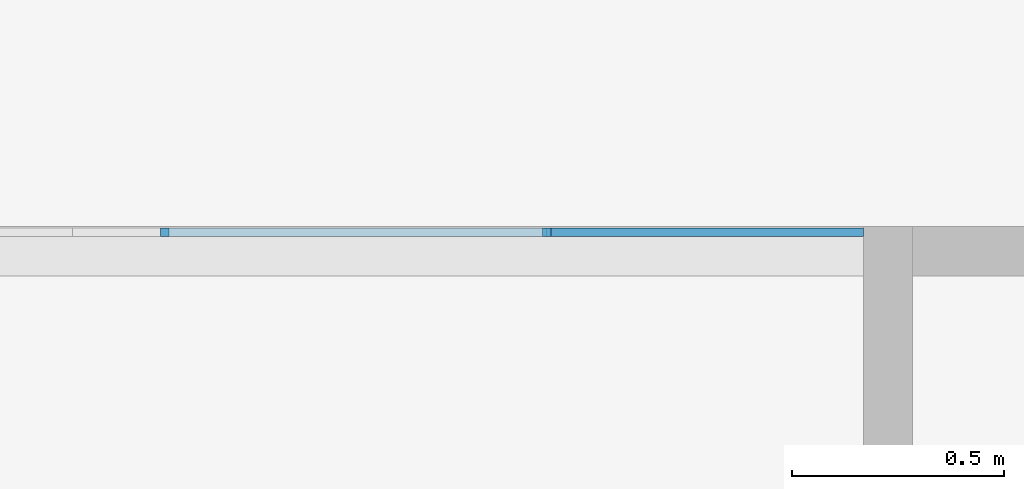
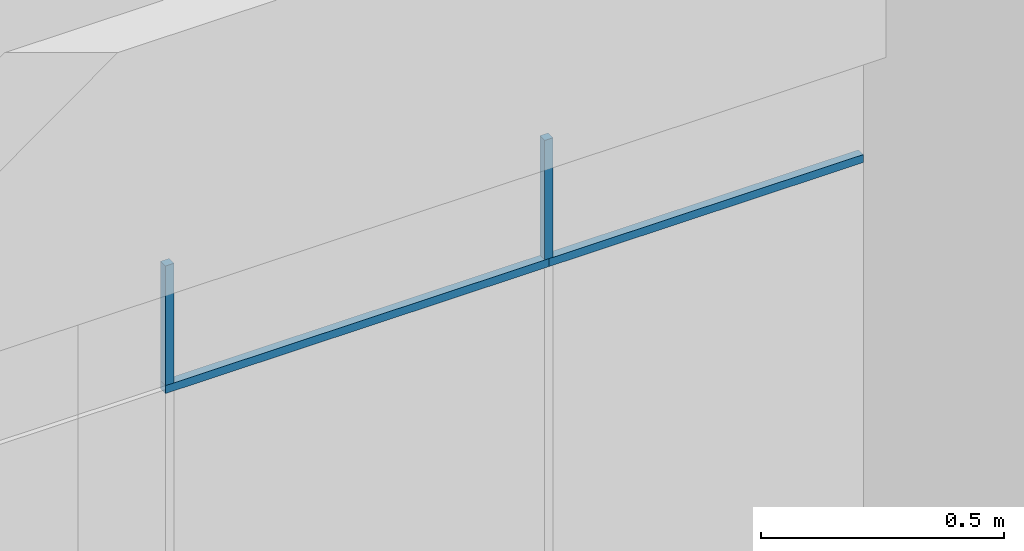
# One storey, part 9 of 66: 4 members, 1 element without a shape of its own.
"""IFC2X3 building model written with IfcOpenShell, lengths in millimetres."""

from ifc_helpers import new_model, entity, si_unit, converted_unit, derived_unit, direction, frame, origin, origin_2d_with_axis, place, context, subcontext, project, spatial, rectangle, extrude, source, transform, mapped, material, type_object, type_shapes, element, aggregate, save


model = new_model("IFC2X3")

# Units and contexts
model_context = context("Model", 3, precision=0.01, world=origin(), true_north=direction((6.12303176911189e-17, 1.0)))
body_context = subcontext(model_context, "Body", "Model", "MODEL_VIEW")
ifc_project = project(units=[si_unit("LENGTHUNIT", "METRE", prefix="MILLI"), si_unit("AREAUNIT", "SQUARE_METRE"), si_unit("VOLUMEUNIT", "CUBIC_METRE"), converted_unit("PLANEANGLEUNIT", "DEGREE", entity("IfcRatioMeasure", 0.0174532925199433), si_unit("PLANEANGLEUNIT", "RADIAN"), dimensions=[0, 0, 0, 0, 0, 0, 0]), si_unit("MASSUNIT", "GRAM", prefix="KILO"), derived_unit("MASSDENSITYUNIT", [(si_unit("MASSUNIT", "GRAM", prefix="KILO"), 1), (si_unit("LENGTHUNIT", "METRE"), -3)]), si_unit("TIMEUNIT", "SECOND"), si_unit("FREQUENCYUNIT", "HERTZ"), si_unit("THERMODYNAMICTEMPERATUREUNIT", "DEGREE_CELSIUS"), derived_unit("THERMALTRANSMITTANCEUNIT", [(si_unit("MASSUNIT", "GRAM", prefix="KILO"), 1), (si_unit("THERMODYNAMICTEMPERATUREUNIT", "KELVIN"), -1), (si_unit("TIMEUNIT", "SECOND"), -3)]), derived_unit("VOLUMETRICFLOWRATEUNIT", [(si_unit("LENGTHUNIT", "METRE"), 3), (si_unit("TIMEUNIT", "SECOND"), -1)]), si_unit("ELECTRICCURRENTUNIT", "AMPERE"), si_unit("ELECTRICVOLTAGEUNIT", "VOLT"), si_unit("POWERUNIT", "WATT"), si_unit("FORCEUNIT", "NEWTON", prefix="KILO"), si_unit("ILLUMINANCEUNIT", "LUX"), si_unit("LUMINOUSFLUXUNIT", "LUMEN"), si_unit("LUMINOUSINTENSITYUNIT", "CANDELA"), derived_unit("USERDEFINED", [(si_unit("MASSUNIT", "GRAM", prefix="KILO"), -1), (si_unit("LENGTHUNIT", "METRE"), -2), (si_unit("TIMEUNIT", "SECOND"), 3), (si_unit("LUMINOUSFLUXUNIT", "LUMEN"), 1)]), derived_unit("LINEARVELOCITYUNIT", [(si_unit("LENGTHUNIT", "METRE"), 1), (si_unit("TIMEUNIT", "SECOND"), -1)]), si_unit("PRESSUREUNIT", "PASCAL"), derived_unit("USERDEFINED", [(si_unit("LENGTHUNIT", "METRE"), -2), (si_unit("MASSUNIT", "GRAM", prefix="KILO"), 1), (si_unit("TIMEUNIT", "SECOND"), -2)])], contexts=[model_context])

# Site, building, storey
site_placement = place(None, frame((-151.875543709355, 2715.0, 0.0)))
site = spatial("IfcSite", under=ifc_project, at=site_placement, Name="Surface", CompositionType="ELEMENT")
building_placement = place(site_placement, origin())
building = spatial("IfcBuilding", under=site, at=building_placement, CompositionType="ELEMENT")
storey_placement = place(building_placement, frame((0.0, 0.0, 3350.0)))
storey = spatial("IfcBuildingStorey", under=building, at=storey_placement, Name="2 korrus", CompositionType="ELEMENT", Elevation=3350.00000000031)

# Curtain wall, members
curtain_wall_type = type_object("IfcCurtainWallType", Name="Curtain Wall:Klaassein KLS-09", PredefinedType="NOTDEFINED")
curtain_wall_placement = place(storey_placement, frame((0.0, 0.0, -3350.0)))
curtain_wall = element("IfcCurtainWall", 1, at=curtain_wall_placement, inside=storey, type_object=curtain_wall_type, Name="Curtain Wall:Klaassein KLS-09", ObjectType="Curtain Wall:Klaassein KLS-09")
ifc_material = material(Name="__Uks_hele tamm")
member_type_1 = type_object("IfcMemberType", Name="20 x 20mm", PredefinedType="MEMBER")
shared_shape_1 = source(origin(), body_context, "Body", "SweptSolid", [
    extrude(rectangle(XDim=20.0, YDim=20.0, at=origin_2d_with_axis()), frame((0.0, 0.0, -300.0), z_axis=(0.0, 0.0, 1.0), x_axis=(0.0, -1.0, 0.0)), (0.0, 0.0, 1.0), 299.999999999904),
])
type_shapes(member_type_1, [shared_shape_1])
member_1_placement = place(storey_placement, frame((16420.0703794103, 4352.04493399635, 2100.0), z_axis=(0.0, 0.0, -1.0), x_axis=(1.0, 0.0, 0.0)))
member_1 = element("IfcMember", 2, at=member_1_placement, type_object=member_type_1, material=ifc_material, Name="Rectangular Mullion:20 x 20mm", ObjectType="20 x 20mm", context=body_context, shape_type="MappedRepresentation", body=[
    mapped(shared_shape_1, transform((0.0, 0.0, 0.0), scale=1.0)),
])
member_2_placement = place(storey_placement, frame((17320.0703794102, 4352.04493399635, 2100.0), z_axis=(0.0, 0.0, -1.0), x_axis=(1.0, 0.0, 0.0)))
member_2 = element("IfcMember", 3, at=member_2_placement, type_object=member_type_1, material=ifc_material, Name="Rectangular Mullion:20 x 20mm", ObjectType="20 x 20mm", context=body_context, shape_type="MappedRepresentation", body=[
    mapped(shared_shape_1, transform((0.0, 0.0, 0.0), scale=1.0)),
])
member_type_2 = type_object("IfcMemberType", Name="20 x 20mm", PredefinedType="MEMBER")
shared_shape_2 = source(origin(), body_context, "Body", "SweptSolid", [
    extrude(rectangle(XDim=20.0, YDim=20.0, at=origin_2d_with_axis()), frame((0.0, 0.0, -910.0), z_axis=(0.0, 0.0, 1.0), x_axis=(0.0, -1.0, 0.0)), (0.0, 0.0, 1.0), 909.999999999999),
])
type_shapes(member_type_2, [shared_shape_2])
member_3_placement = place(storey_placement, frame((17320.0703794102, 4352.04493399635, 2090.0), z_axis=(1.0, 0.0, 0.0), x_axis=(0.0, 0.0, 1.0)))
member_3 = element("IfcMember", 4, at=member_3_placement, type_object=member_type_2, material=ifc_material, Name="Rectangular Mullion:20 x 20mm", ObjectType="20 x 20mm", context=body_context, shape_type="MappedRepresentation", body=[
    mapped(shared_shape_2, transform((0.0, 0.0, 0.0), scale=1.0)),
])
member_type_3 = type_object("IfcMemberType", Name="20 x 20mm", PredefinedType="MEMBER")
shared_shape_3 = source(origin(), body_context, "Body", "SweptSolid", [
    extrude(rectangle(XDim=20.0, YDim=20.0, at=origin_2d_with_axis()), frame((0.0, 0.0, -746.494346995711), z_axis=(0.0, 0.0, 1.0), x_axis=(0.0, -1.0, 0.0)), (0.0, 0.0, 1.0), 746.494346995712),
])
type_shapes(member_type_3, [shared_shape_3])
member_4_placement = place(storey_placement, frame((18066.564726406, 4352.04493399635, 2090.0), z_axis=(1.0, 0.0, 0.0), x_axis=(0.0, 0.0, 1.0)))
member_4 = element("IfcMember", 5, at=member_4_placement, type_object=member_type_3, material=ifc_material, Name="Rectangular Mullion:20 x 20mm", ObjectType="20 x 20mm", context=body_context, shape_type="MappedRepresentation", body=[
    mapped(shared_shape_3, transform((0.0, 0.0, 0.0), scale=1.0)),
])
aggregate(curtain_wall, [member_1, member_3, member_4, member_2])

save(model, "model.ifc")
